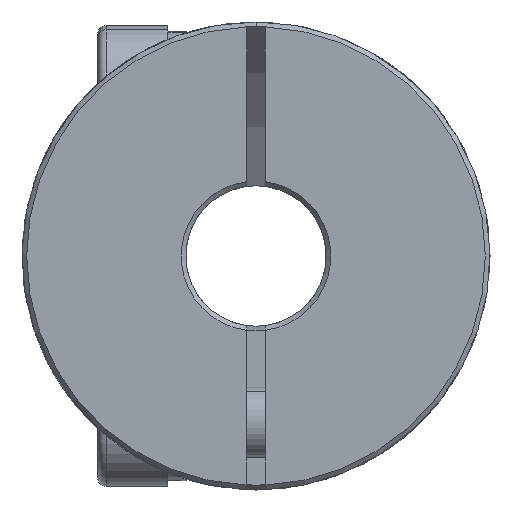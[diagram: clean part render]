
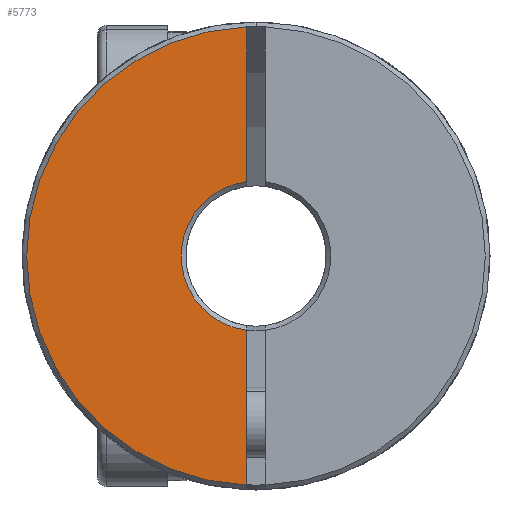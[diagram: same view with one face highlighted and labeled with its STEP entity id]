
A CAD part, front view. The second image highlights one B-rep face of the part: STEP entity #5773.
In plain terms, the highlighted planar face has unit normal (0, -1, 0).
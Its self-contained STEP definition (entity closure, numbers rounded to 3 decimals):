
#209 = CARTESIAN_POINT ( 'NONE',  ( -0.4, -17.5, 3.175 ) ) ;
#757 = CARTESIAN_POINT ( 'NONE',  ( 0., -17.5, 0. ) ) ;
#815 = CARTESIAN_POINT ( 'NONE',  ( -0.4, -17.5, 9.792 ) ) ;
#978 = CARTESIAN_POINT ( 'NONE',  ( 0., -17.5, 0. ) ) ;
#1085 = ORIENTED_EDGE ( 'NONE', *, *, #5179, .F. ) ;
#1428 = CARTESIAN_POINT ( 'NONE',  ( -0.4, -17.5, 0. ) ) ;
#1655 = CIRCLE ( 'NONE', #3754, 9.8 ) ;
#1728 = CARTESIAN_POINT ( 'NONE',  ( -0.4, -17.5, 0. ) ) ;
#1811 = DIRECTION ( 'NONE',  ( 0., 1., 0. ) ) ;
#1820 = LINE ( 'NONE', #1428, #7434 ) ;
#1980 = ORIENTED_EDGE ( 'NONE', *, *, #2458, .T. ) ;
#2002 = DIRECTION ( 'NONE',  ( 0., 0., -1. ) ) ;
#2157 = DIRECTION ( 'NONE',  ( 0., 0., 1. ) ) ;
#2421 = EDGE_LOOP ( 'NONE', ( #7419, #1980, #1085, #4656 ) ) ;
#2458 = EDGE_CURVE ( 'NONE', #6114, #5302, #1655, .T. ) ;
#2670 = AXIS2_PLACEMENT_3D ( 'NONE', #757, #1811, #5363 ) ;
#2780 = VERTEX_POINT ( 'NONE', #209 ) ;
#3501 = DIRECTION ( 'NONE',  ( 0., 0., -1. ) ) ;
#3754 = AXIS2_PLACEMENT_3D ( 'NONE', #978, #4486, #2157 ) ;
#4157 = CARTESIAN_POINT ( 'NONE',  ( -0.4, -17.5, -9.792 ) ) ;
#4486 = DIRECTION ( 'NONE',  ( 0., -1., 0. ) ) ;
#4496 = AXIS2_PLACEMENT_3D ( 'NONE', #6027, #5955, #5409 ) ;
#4574 = CARTESIAN_POINT ( 'NONE',  ( -0.4, -17.5, -3.175 ) ) ;
#4656 = ORIENTED_EDGE ( 'NONE', *, *, #4761, .T. ) ;
#4761 = EDGE_CURVE ( 'NONE', #6468, #2780, #4908, .T. ) ;
#4908 = CIRCLE ( 'NONE', #4496, 3.2 ) ;
#5179 = EDGE_CURVE ( 'NONE', #6468, #5302, #5257, .T. ) ;
#5257 = LINE ( 'NONE', #1728, #6977 ) ;
#5302 = VERTEX_POINT ( 'NONE', #4157 ) ;
#5363 = DIRECTION ( 'NONE',  ( 0., 0., 1. ) ) ;
#5409 = DIRECTION ( 'NONE',  ( 0., 0., 1. ) ) ;
#5533 = EDGE_CURVE ( 'NONE', #6114, #2780, #1820, .T. ) ;
#5773 = ADVANCED_FACE ( 'NONE', ( #5788 ), #6497, .F. ) ;
#5788 = FACE_OUTER_BOUND ( 'NONE', #2421, .T. ) ;
#5955 = DIRECTION ( 'NONE',  ( 0., 1., 0. ) ) ;
#6027 = CARTESIAN_POINT ( 'NONE',  ( 0., -17.5, 0. ) ) ;
#6114 = VERTEX_POINT ( 'NONE', #815 ) ;
#6468 = VERTEX_POINT ( 'NONE', #4574 ) ;
#6497 = PLANE ( 'NONE',  #2670 ) ;
#6977 = VECTOR ( 'NONE', #3501, 1000. ) ;
#7419 = ORIENTED_EDGE ( 'NONE', *, *, #5533, .F. ) ;
#7434 = VECTOR ( 'NONE', #2002, 1000. ) ;
